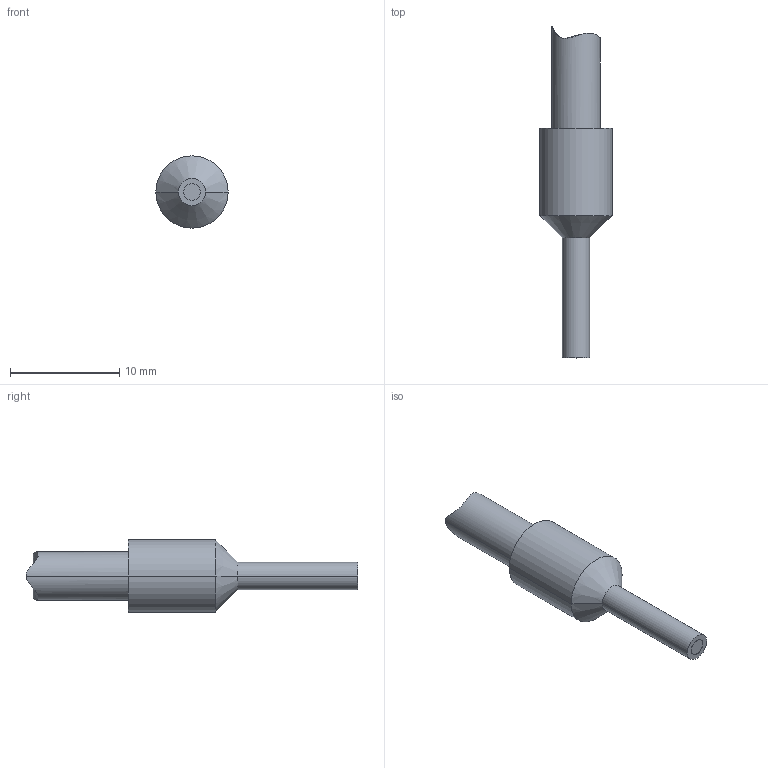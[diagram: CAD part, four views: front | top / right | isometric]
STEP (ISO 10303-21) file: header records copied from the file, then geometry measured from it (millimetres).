
FILE_DESCRIPTION((''),'2;1');
FILE_NAME('0000366350_PRT','2021-03-04T13:26:43',('pdmservice'),(''),'CREO PARAMETRIC BY PTC INC, 2018420','CREO PARAMETRIC BY PTC INC, 2018420','');
FILE_SCHEMA(('AUTOMOTIVE_DESIGN { 1 0 10303 214 1 1 1 1 }'));
Length unit declared in the file: millimetre
Products named in the file (1): 0000366350_PRT
Bounding box: 6.6 x 30.35 x 6.6 mm (x, y, z)
Volume: 491.3 mm3; surface area: 452.3 mm2
Topology: 1 solids, 1 shells, 14 faces, 26 edges, 16 vertices
Faces by surface type: cylinder 8, plane 3, cone 2, extrusion 1
Entity records: 1403 total; most frequent: CARTESIAN_POINT 143, PROPERTY_DEFINITION 122, REPRESENTATION 121, PROPERTY_DEFINITION_REPRESENTATION 121, DESCRIPTIVE_REPRESENTATION_ITEM 109, GENERAL_PROPERTY 104, GENERAL_PROPERTY_ASSOCIATION 104, DIRECTION 65
